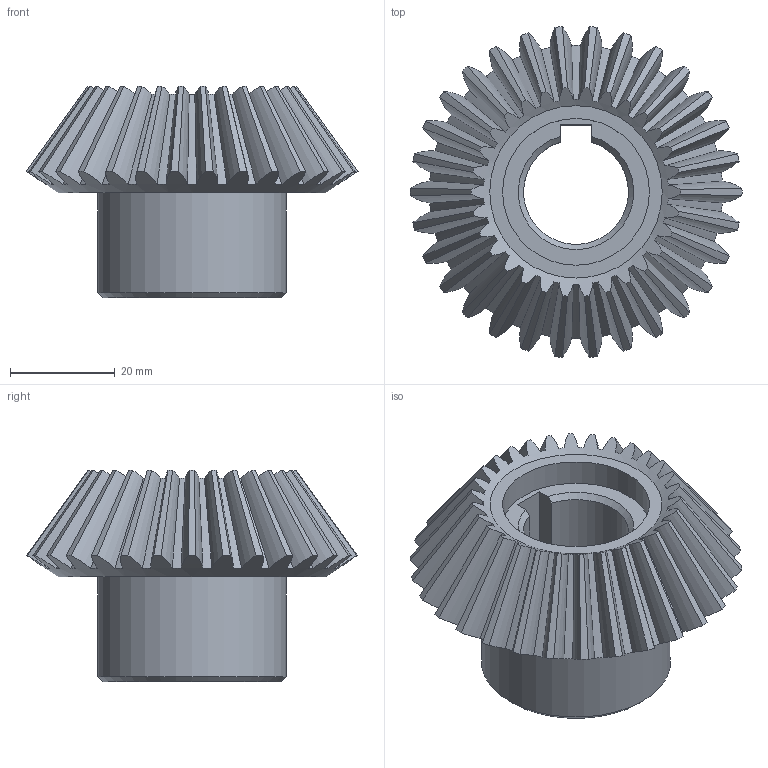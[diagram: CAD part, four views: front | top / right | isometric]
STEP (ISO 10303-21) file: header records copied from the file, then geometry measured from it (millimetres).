
FILE_DESCRIPTION(/* description */ (''),/* implementation_level */ '2;1');
FILE_NAME(/* name */ '',/* time_stamp */ '2026-01-09T11:20:54+09:00',/* author */ ('jhkim'),/* organization */ (''),/* preprocessor_version */ 'ST-DEVELOPER v20.1',/* originating_system */ 'Autodesk Inventor 2026',/* authorisation */ '');
FILE_SCHEMA (('AUTOMOTIVE_DESIGN { 1 0 10303 214 3 1 1 }'));
Length unit declared in the file: millimetre
Products named in the file (1): 베벨 기어(구동)
Bounding box: 63.33 x 63.12 x 40.34 mm (x, y, z)
Volume: 43266 mm3; surface area: 14438.2 mm2
Topology: 1 solids, 1 shells, 135 faces, 393 edges, 262 vertices
Faces by surface type: cone 65, bspline 60, plane 7, cylinder 3
Full cylindrical faces by diameter (mm): 28 x1, 36 x1
Entity records: 7232 total; most frequent: CARTESIAN_POINT 4147, ORIENTED_EDGE 786, DIRECTION 435, EDGE_CURVE 393, VERTEX_POINT 262, B_SPLINE_CURVE_WITH_KNOTS 240, AXIS2_PLACEMENT_3D 210, EDGE_LOOP 139
